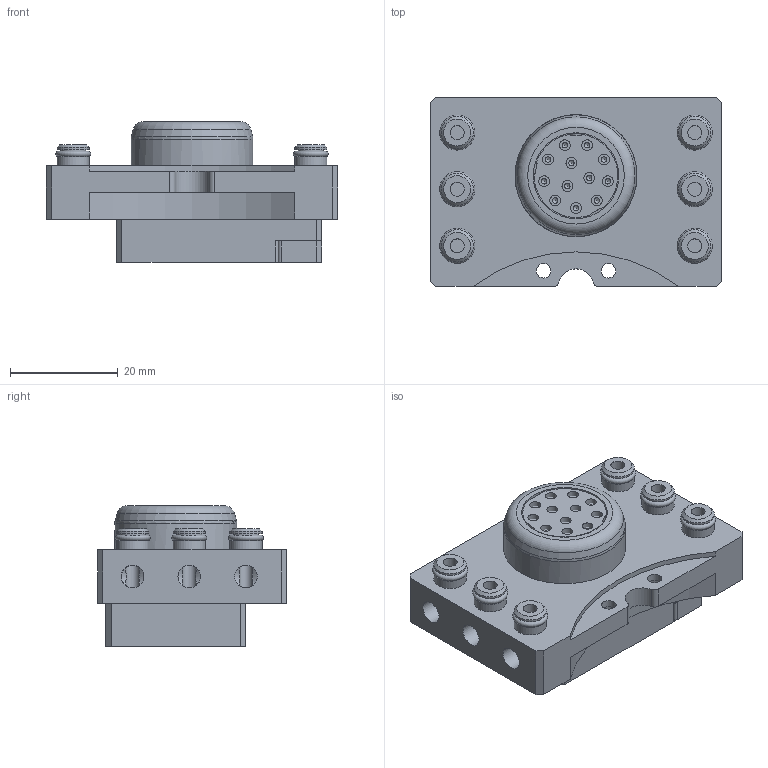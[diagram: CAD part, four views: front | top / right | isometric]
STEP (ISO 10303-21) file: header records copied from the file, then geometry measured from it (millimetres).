
FILE_DESCRIPTION(/* description */ (''),/* implementation_level */ '2;1');
FILE_NAME(/* name */ '\\dc01\daten\CAD\Standard\MEK\G-MEK063-160\MEK063\Kunde\Bystronic\G-MEK063-U-6PM5-1E12.stp',/* time_stamp */ '2017-11-09T14:07:34+01:00',/* author */ ('ysplieth'),/* organization */ (''),/* preprocessor_version */ 'ST-DEVELOPER v16.13',/* originating_system */ 'Autodesk Inventor 2018',/* authorisation */ '');
FILE_SCHEMA (('AUTOMOTIVE_DESIGN { 1 0 10303 214 3 1 1 }'));
Length unit declared in the file: millimetre
Products named in the file (1): Bauteil3
Bounding box: 54 x 35 x 26.1 mm (x, y, z)
Volume: 25008 mm3; surface area: 18391.7 mm2
Topology: 29 solids, 29 shells, 420 faces, 978 edges, 631 vertices
Faces by surface type: plane 189, cylinder 153, cone 61, torus 17
Full cylindrical faces by diameter (mm): 1 x12, 1.6 x12, 2 x26, 2.459 x2, 2.5 x2, 2.6 x6, 2.7 x14, 3 x4, 3.4 x4, 4.2 x6, 4.6 x6, 5 x2, 5.5 x2, 6 x16, 6.2 x1, 14 x1, 15.9 x1, 17 x1, 17.1 x1, 18.2 x1, 19 x1, 22.6 x1
Entity records: 11950 total; most frequent: CARTESIAN_POINT 2823, DIRECTION 1821, ORIENTED_EDGE 1444, AXIS2_PLACEMENT_3D 752, EDGE_CURVE 722, EDGE_LOOP 687, VERTEX_POINT 555, STYLED_ITEM 448
